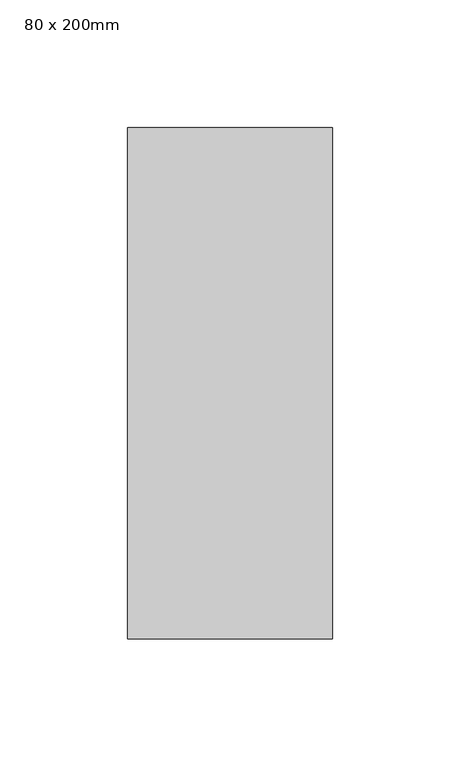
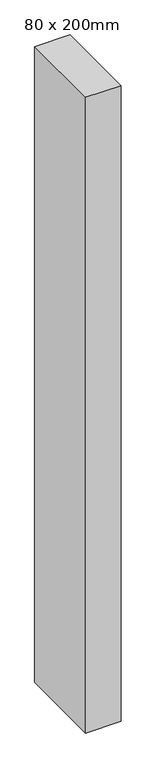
"""IFC4 building model written with IfcOpenShell, lengths in millimetres: member geometry, 矩形竖梃 : 80 x 200mm."""

from ifc_helpers import new_model, si_unit, frame, origin, place, context, project, spatial, polyline, outline, extrude, source, transform, mapped, element, save


def member_80_x_200mm_af80708f(model_context):
    return source(origin(), model_context, "Body", "SweptSolid", [
        extrude(outline(polyline([(40.0, 100.0), (40.0, -100.0), (-40.0, -100.0), (-40.0, 100.0), (40.0, 100.0)])), frame((0.0, 0.0, -1520.0000003), z_axis=(0.0, 0.0, 1.0), x_axis=(1.0, 0.0, 0.0)), (0.0, 0.0, 1.0), 1520.0000003),
    ])


if __name__ == "__main__":
    model = new_model("IFC4")
    model_context = context("Model", 3, world=origin())
    ifc_project = project(units=[si_unit("LENGTHUNIT", "METRE", prefix="MILLI")], contexts=[model_context])
    site = spatial("IfcSite", under=ifc_project)
    building = spatial("IfcBuilding", under=site)
    placement = place(None, origin())
    member_80_x_200mm_shape = member_80_x_200mm_af80708f(model_context)
    element("IfcMember", 1, ObjectType="矩形竖梃 : 80 x 200mm", at=placement, inside=building, context=model_context, shape_type="MappedRepresentation", body=[
        mapped(member_80_x_200mm_shape, transform((0.0, 0.0, 0.0), x_axis=(1.0, 0.0, 0.0), y_axis=(0.0, 1.0, 0.0), z_axis=(0.0, 0.0, 1.0))),
    ])
    save(model, "model.ifc")
